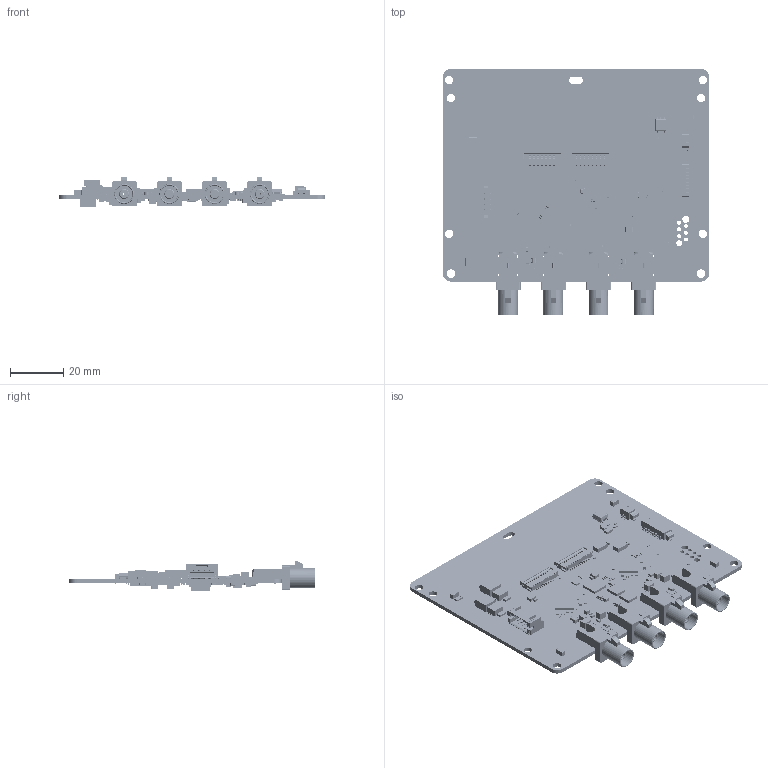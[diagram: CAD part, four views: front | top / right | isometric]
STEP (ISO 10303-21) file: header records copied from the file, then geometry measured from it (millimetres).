
FILE_DESCRIPTION(/* description */ (''),/* implementation_level */ '2;1');
FILE_NAME(/* name */ 'KSM_MF-HC0-0120_GMSL2-DSER.stp',/* time_stamp */ '2026-04-24T10:12:20+02:00',/* author */ ('khw'),/* organization */ ('TIS/ Germany'),/* preprocessor_version */ 'ST-DEVELOPER v20',/* originating_system */ 'Autodesk Inventor 2025',/* authorisation */ '6767,5 mm^3');
FILE_SCHEMA (('AUTOMOTIVE_DESIGN { 1 0 10303 214 3 1 1 }'));
Products named in the file (1): KSM_MF-HC0-0120_GMSL2-DSER
Bounding box: 100 x 92.63 x 10.91 mm (x, y, z)
Volume: 16572.8 mm3; surface area: 25381.5 mm2
Topology: 18 solids, 18 shells, 15133 faces, 37112 edges, 20650 vertices
Faces by surface type: plane 7085, cylinder 5585, sphere 1200, torus 1162, bspline 64, cone 37
Full cylindrical faces by diameter (mm): 0.5 x2, 0.7 x8, 1.5 x22, 2.2 x1, 2.6 x5, 3.1 x4, 3.2 x4, 3.7 x4, 6.3 x4, 7.45 x4
Entity records: 447684 total; most frequent: CARTESIAN_POINT 77844, DIRECTION 77420, ORIENTED_EDGE 71824, EDGE_CURVE 35912, AXIS2_PLACEMENT_3D 26642, LINE 24136, VECTOR 24136, VERTEX_POINT 20650
